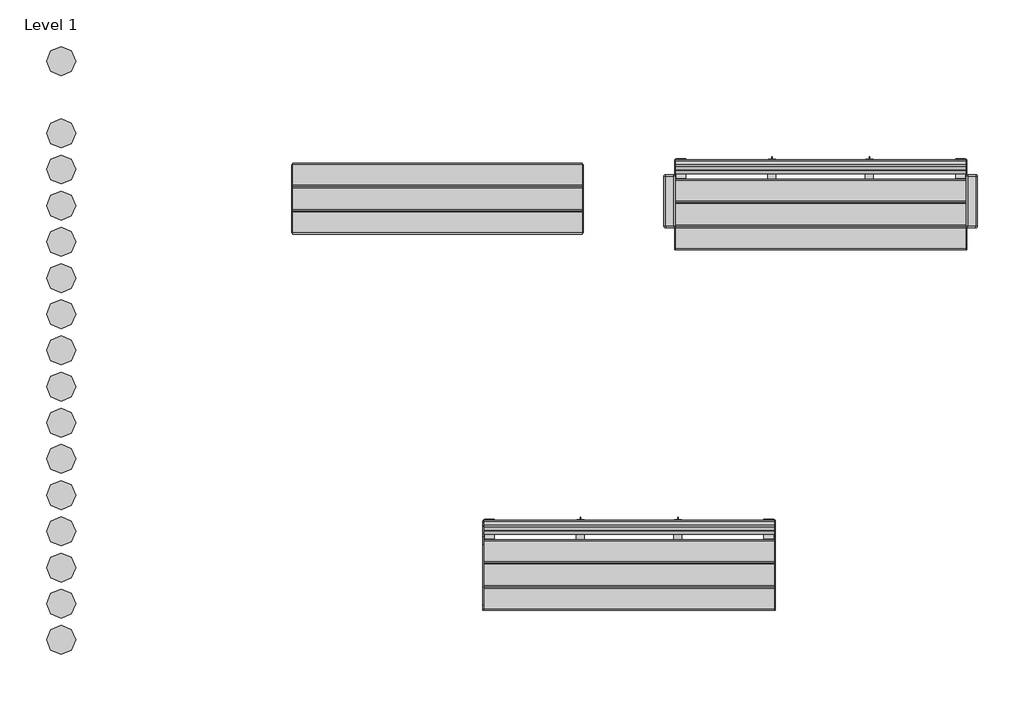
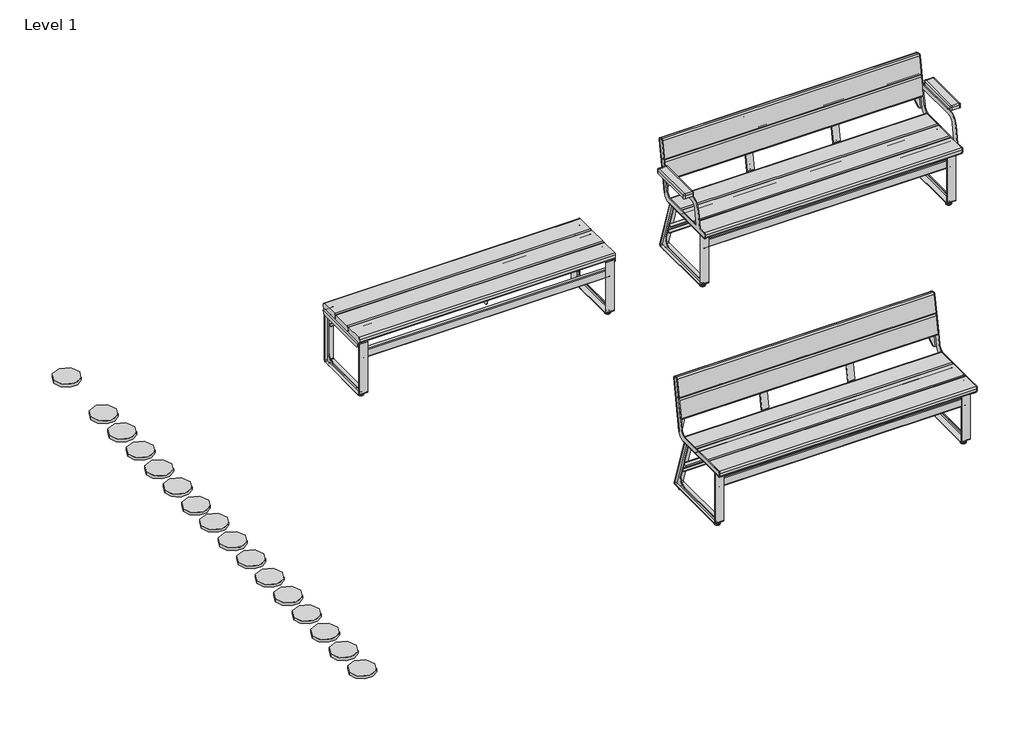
# One storey: 16 proxies, 3 furniture elements.
"""IFC4 building model written with IfcOpenShell, lengths in millimetres."""

from ifc_helpers import new_model, si_unit, origin, place, context, project, spatial, transform, mapped, element, save
from components import materialmodel_materialmodel_ff088fdc, furniture_aa3bec5c, furniture_2495d7e9, furniture_b0182ef4, furniture_3cb17557, furniture_f64518dc

model = new_model("IFC4")

# Units and contexts
model_context = context("Model", 3, world=origin())
ifc_project = project(units=[si_unit("LENGTHUNIT", "METRE", prefix="MILLI")], contexts=[model_context])

# Site, building, storey
site = spatial("IfcSite", under=ifc_project)
building = spatial("IfcBuilding", under=site)
storey = spatial("IfcBuildingStorey", under=building, Name="Level 1", Elevation=0.0)

# Proxies
placement = place(None, origin())
materialmodel_materialmodel_shape = materialmodel_materialmodel_ff088fdc(model_context)
element("IfcBuildingElementProxy", 1, Name="MaterialModel : MaterialModel", ObjectType="MaterialModel : MaterialModel", at=placement, inside=storey, context=model_context, shape_type="MappedRepresentation", body=[
    mapped(materialmodel_materialmodel_shape, transform((-10113.5516042, 2803.1710583, 0.0), x_axis=(1.0, 0.0, 0.0), y_axis=(0.0, 1.0, 0.0), z_axis=(0.0, 0.0, 1.0))),
])
element("IfcBuildingElementProxy", 2, Name="MaterialModel : MaterialModel", ObjectType="MaterialModel : MaterialModel", at=placement, inside=storey, context=model_context, shape_type="MappedRepresentation", body=[
    mapped(materialmodel_materialmodel_shape, transform((-10113.5516042, 2578.362683, 0.0), x_axis=(1.0, 0.0, 0.0), y_axis=(0.0, 1.0, 0.0), z_axis=(0.0, 0.0, 1.0))),
])
element("IfcBuildingElementProxy", 3, Name="MaterialModel : MaterialModel", ObjectType="MaterialModel : MaterialModel", at=placement, inside=storey, context=model_context, shape_type="MappedRepresentation", body=[
    mapped(materialmodel_materialmodel_shape, transform((-10113.5516042, 2353.5543077, 0.0), x_axis=(1.0, 0.0, 0.0), y_axis=(0.0, 1.0, 0.0), z_axis=(0.0, 0.0, 1.0))),
])
element("IfcBuildingElementProxy", 4, Name="MaterialModel : MaterialModel", ObjectType="MaterialModel : MaterialModel", at=placement, inside=storey, context=model_context, shape_type="MappedRepresentation", body=[
    mapped(materialmodel_materialmodel_shape, transform((-10113.5516042, 2128.7459325, 0.0), x_axis=(1.0, 0.0, 0.0), y_axis=(0.0, 1.0, 0.0), z_axis=(0.0, 0.0, 1.0))),
])
element("IfcBuildingElementProxy", 5, Name="MaterialModel : MaterialModel", ObjectType="MaterialModel : MaterialModel", at=placement, inside=storey, context=model_context, shape_type="MappedRepresentation", body=[
    mapped(materialmodel_materialmodel_shape, transform((-10113.5516042, 1903.9375572, 0.0), x_axis=(1.0, 0.0, 0.0), y_axis=(0.0, 1.0, 0.0), z_axis=(0.0, 0.0, 1.0))),
])
element("IfcBuildingElementProxy", 6, Name="MaterialModel : MaterialModel", ObjectType="MaterialModel : MaterialModel", at=placement, inside=storey, context=model_context, shape_type="MappedRepresentation", body=[
    mapped(materialmodel_materialmodel_shape, transform((-10113.5516042, 1679.1291819, 0.0), x_axis=(1.0, 0.0, 0.0), y_axis=(0.0, 1.0, 0.0), z_axis=(0.0, 0.0, 1.0))),
])
element("IfcBuildingElementProxy", 7, Name="MaterialModel : MaterialModel", ObjectType="MaterialModel : MaterialModel", at=placement, inside=storey, context=model_context, shape_type="MappedRepresentation", body=[
    mapped(materialmodel_materialmodel_shape, transform((-10113.5516042, 1454.3208066, 10.0), x_axis=(1.0, 0.0, 0.0), y_axis=(0.0, 1.0, 0.0), z_axis=(0.0, 0.0, 1.0))),
])
element("IfcBuildingElementProxy", 8, Name="MaterialModel : MaterialModel", ObjectType="MaterialModel : MaterialModel", at=placement, inside=storey, context=model_context, shape_type="MappedRepresentation", body=[
    mapped(materialmodel_materialmodel_shape, transform((-10113.5516042, 1229.5124313, 10.0), x_axis=(1.0, 0.0, 0.0), y_axis=(0.0, 1.0, 0.0), z_axis=(0.0, 0.0, 1.0))),
])
element("IfcBuildingElementProxy", 9, Name="MaterialModel : MaterialModel", ObjectType="MaterialModel : MaterialModel", at=placement, inside=storey, context=model_context, shape_type="MappedRepresentation", body=[
    mapped(materialmodel_materialmodel_shape, transform((-10113.5516042, 1004.7040561, 10.0), x_axis=(1.0, 0.0, 0.0), y_axis=(0.0, 1.0, 0.0), z_axis=(0.0, 0.0, 1.0))),
])
element("IfcBuildingElementProxy", 10, Name="MaterialModel : MaterialModel", ObjectType="MaterialModel : MaterialModel", at=placement, inside=storey, context=model_context, shape_type="MappedRepresentation", body=[
    mapped(materialmodel_materialmodel_shape, transform((-10113.5516042, 779.8956808, 10.0), x_axis=(1.0, 0.0, 0.0), y_axis=(0.0, 1.0, 0.0), z_axis=(0.0, 0.0, 1.0))),
])
element("IfcBuildingElementProxy", 11, Name="MaterialModel : MaterialModel", ObjectType="MaterialModel : MaterialModel", at=placement, inside=storey, context=model_context, shape_type="MappedRepresentation", body=[
    mapped(materialmodel_materialmodel_shape, transform((-10113.5516042, 555.0873055, 10.0), x_axis=(1.0, 0.0, 0.0), y_axis=(0.0, 1.0, 0.0), z_axis=(0.0, 0.0, 1.0))),
])
element("IfcBuildingElementProxy", 12, Name="MaterialModel : MaterialModel", ObjectType="MaterialModel : MaterialModel", at=placement, inside=storey, context=model_context, shape_type="MappedRepresentation", body=[
    mapped(materialmodel_materialmodel_shape, transform((-10113.5516042, 330.2789302, 10.0), x_axis=(1.0, 0.0, 0.0), y_axis=(0.0, 1.0, 0.0), z_axis=(0.0, 0.0, 1.0))),
])
element("IfcBuildingElementProxy", 13, Name="MaterialModel : MaterialModel", ObjectType="MaterialModel : MaterialModel", at=placement, inside=storey, context=model_context, shape_type="MappedRepresentation", body=[
    mapped(materialmodel_materialmodel_shape, transform((-10113.5516042, 105.470555, 10.0), x_axis=(1.0, 0.0, 0.0), y_axis=(0.0, 1.0, 0.0), z_axis=(0.0, 0.0, 1.0))),
])
element("IfcBuildingElementProxy", 14, Name="MaterialModel : MaterialModel", ObjectType="MaterialModel : MaterialModel", at=placement, inside=storey, context=model_context, shape_type="MappedRepresentation", body=[
    mapped(materialmodel_materialmodel_shape, transform((-10113.5516042, -119.3378203, 10.0), x_axis=(1.0, 0.0, 0.0), y_axis=(0.0, 1.0, 0.0), z_axis=(0.0, 0.0, 1.0))),
])
element("IfcBuildingElementProxy", 15, Name="MaterialModel : MaterialModel", ObjectType="MaterialModel : MaterialModel", at=placement, inside=storey, context=model_context, shape_type="MappedRepresentation", body=[
    mapped(materialmodel_materialmodel_shape, transform((-10113.5516042, -344.1461956, 10.0), x_axis=(1.0, 0.0, 0.0), y_axis=(0.0, 1.0, 0.0), z_axis=(0.0, 0.0, 1.0))),
])
element("IfcBuildingElementProxy", 16, Name="MaterialModel : MaterialModel", ObjectType="MaterialModel : MaterialModel", at=placement, inside=storey, context=model_context, shape_type="MappedRepresentation", body=[
    mapped(materialmodel_materialmodel_shape, transform((-10113.5516042, 3252.214146, 0.0), x_axis=(1.0, 0.0, 0.0), y_axis=(0.0, 1.0, 0.0), z_axis=(0.0, 0.0, 1.0))),
])

# Furniture
furniture_shape = furniture_aa3bec5c(model_context)
furniture_2_shape = furniture_2495d7e9(model_context)
element("IfcFurniture", 17, ObjectType="Roros Produkter - Trend - Bench - Backrest - 32982 : Roros Produkter - Trend - Bench - Backrest - 32982", at=placement, inside=storey, context=model_context, shape_type="MappedRepresentation", body=[
    mapped(furniture_shape, transform((-6583.9082205, 157.003752, 0.0), x_axis=(1.0, 0.0, 0.0), y_axis=(0.0, 1.0, 0.0), z_axis=(0.0, 0.0, 1.0))),
    mapped(furniture_2_shape, transform((-6583.9082205, 157.003752, 0.0), x_axis=(1.0, 0.0, 0.0), y_axis=(0.0, 1.0, 0.0), z_axis=(0.0, 0.0, 1.0))),
])
furniture_3_shape = furniture_b0182ef4(model_context)
element("IfcFurniture", 18, ObjectType="Roros Produkter - Trend - Bench - 32941 : Roros Produkter - Trend - Bench - 32941", at=placement, inside=storey, context=model_context, shape_type="MappedRepresentation", body=[
    mapped(furniture_3_shape, transform((-7773.9082205, 2397.003752, 0.0), x_axis=(1.0, 0.0, 0.0), y_axis=(0.0, 1.0, 0.0), z_axis=(0.0, 0.0, 1.0))),
])
furniture_4_shape = furniture_3cb17557(model_context)
furniture_5_shape = furniture_f64518dc(model_context)
element("IfcFurniture", 19, ObjectType="Roros Produkter - Trend - Bench - Backrest & Armrest - 32981 : Roros Produkter - Trend - Bench - Backrest & Armrest - 32981", at=placement, inside=storey, context=model_context, shape_type="MappedRepresentation", body=[
    mapped(furniture_4_shape, transform((-5393.9082205, 2397.003752, 0.0), x_axis=(1.0, 0.0, 0.0), y_axis=(0.0, 1.0, 0.0), z_axis=(0.0, 0.0, 1.0))),
    mapped(furniture_5_shape, transform((-5393.9082205, 2397.003752, 0.0), x_axis=(1.0, 0.0, 0.0), y_axis=(0.0, 1.0, 0.0), z_axis=(0.0, 0.0, 1.0))),
])

save(model, "model.ifc")
